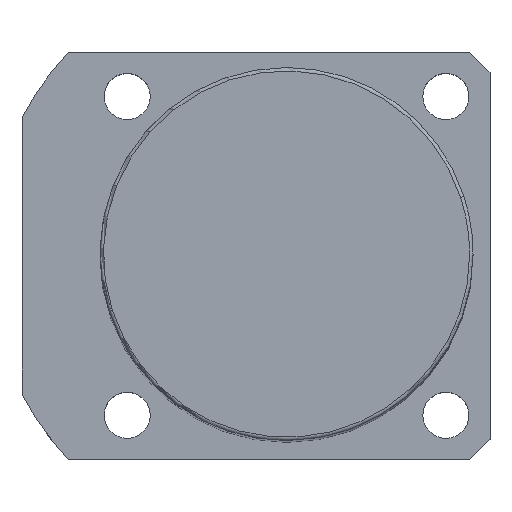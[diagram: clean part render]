
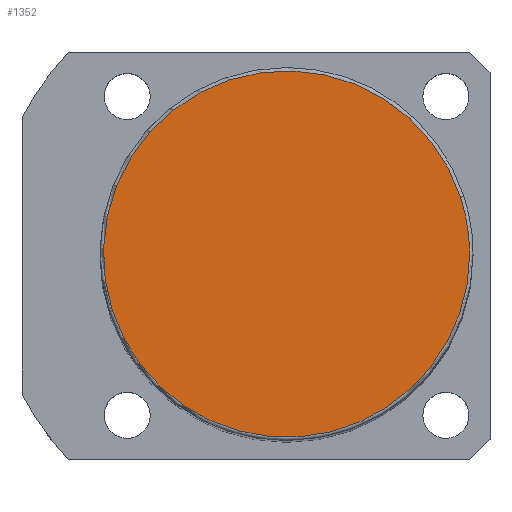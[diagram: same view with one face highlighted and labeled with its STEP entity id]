
A CAD part, top view. The second image highlights one B-rep face of the part: STEP entity #1352.
In plain terms, the highlighted planar face has unit normal (0, 0, 1).
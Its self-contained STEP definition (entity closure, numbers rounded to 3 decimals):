
#1318=CARTESIAN_POINT('',(27.0,0.0,166.0));
#1319=VERTEX_POINT('',#1318);
#1320=CARTESIAN_POINT('',(25.679,8.343,166.0));
#1321=VERTEX_POINT('',#1320);
#1322=CARTESIAN_POINT('',(0.0,0.0,166.0));
#1323=DIRECTION('',(0.0,0.0,1.0));
#1324=DIRECTION('',(1.0,0.0,0.0));
#1325=AXIS2_PLACEMENT_3D('',#1322,#1323,#1324);
#1326=CIRCLE('',#1325,27.0);
#1327=EDGE_CURVE('no 1845',#1319,#1321,#1326,.T.);
#1328=ORIENTED_EDGE('',*,*,#1327,.T.);
#1329=CARTESIAN_POINT('',(-25.679,-8.343,166.0));
#1330=VERTEX_POINT('',#1329);
#1331=CARTESIAN_POINT('',(0.0,0.0,166.0));
#1332=DIRECTION('',(0.0,0.0,1.0));
#1333=DIRECTION('',(1.0,0.0,0.0));
#1334=AXIS2_PLACEMENT_3D('',#1331,#1332,#1333);
#1335=CIRCLE('',#1334,27.0);
#1336=EDGE_CURVE('no 1851',#1321,#1330,#1335,.T.);
#1337=ORIENTED_EDGE('',*,*,#1336,.T.);
#1338=CARTESIAN_POINT('',(0.0,0.0,166.0));
#1339=DIRECTION('',(0.0,0.0,1.0));
#1340=DIRECTION('',(1.0,0.0,0.0));
#1341=AXIS2_PLACEMENT_3D('',#1338,#1339,#1340);
#1342=CIRCLE('',#1341,27.0);
#1343=EDGE_CURVE('no 1855',#1330,#1319,#1342,.T.);
#1344=ORIENTED_EDGE('',*,*,#1343,.T.);
#1345=EDGE_LOOP('',(#1328,#1337,#1344));
#1346=FACE_OUTER_BOUND('',#1345,.T.);
#1347=CARTESIAN_POINT('',(0.0,0.0,166.0));
#1348=DIRECTION('',(0.0,0.0,1.0));
#1349=DIRECTION('',(1.0,0.0,0.0));
#1350=AXIS2_PLACEMENT_3D('',#1347,#1348,#1349);
#1351=PLANE('',#1350);
#1352=ADVANCED_FACE('no 1836',(#1346),#1351,.T.);
